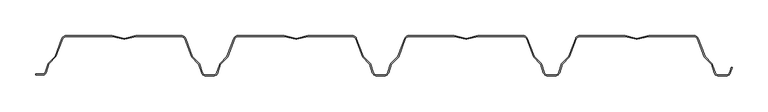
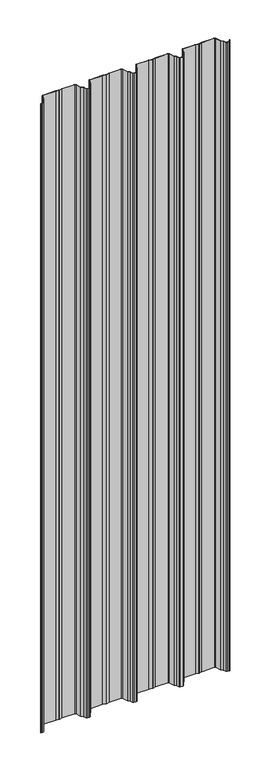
"""IFC4 building model written with IfcOpenShell, lengths in millimetres: plate geometry, HIANSA- H20.F08.006-CHAPA PERFILADA CUBIERTA - MT56 DECK - Panel de Muro Cortina : -."""

from ifc_helpers import new_model, si_unit, point, frame_2d, origin, origin_with_axes, place, context, project, spatial, polyline, circle_curve, trimmed, segment, composite_curve, outline, extrude, source, transform, mapped, element, save


def plate_98c327d0(model_context):
    return source(origin(), model_context, "Body", "SweptSolid", [
        extrude(outline(composite_curve([segment(trimmed(circle_curve(frame_2d((-118.4885808, 54.0787372)), 3.0), [point((-117.8135991, 51.1556567))], [point((-119.1618653, 51.1552653))], False, "CARTESIAN"), True, "CONTINUOUS"), segment(polyline([(-119.1618653, 51.1552653), (-134.9876871, 54.8), (-199.5917421, 54.8)]), True, "CONTINUOUS"), segment(trimmed(circle_curve(frame_2d((-199.5917421, 50.0)), 4.8), [point((-199.5917421, 54.8))], [point((-204.0830462, 51.6935723))], True, "CARTESIAN"), True, "CONTINUOUS"), segment(polyline([(-204.0830462, 51.6935723), (-213.7771182, 25.9851779), (-223.762296, 16.0), (-227.4465616, 4.21035)]), True, "CONTINUOUS"), segment(trimmed(circle_curve(frame_2d((-233.1734415, 6.0)), 6.0), [point((-227.4465616, 4.21035))], [point((-233.1734415, 0.0))], False, "CARTESIAN"), True, "CONTINUOUS"), segment(polyline([(-233.1734415, 0.0), (-244.3511505, 0.0)]), True, "CONTINUOUS"), segment(trimmed(circle_curve(frame_2d((-244.3511505, 6.0)), 6.0), [point((-244.3511505, 0.0))], [point((-250.0780304, 4.21035))], False, "CARTESIAN"), True, "CONTINUOUS"), segment(polyline([(-250.0780304, 4.21035), (-253.762296, 16.0), (-263.7474739, 25.9851779), (-273.4415459, 51.6935723)]), True, "CONTINUOUS"), segment(trimmed(circle_curve(frame_2d((-277.93285, 50.0)), 4.8), [point((-273.4415459, 51.6935723))], [point((-277.93285, 54.8))], True, "CARTESIAN"), True, "CONTINUOUS"), segment(polyline([(-277.93285, 54.8), (-341.3059902, 54.8), (-357.0882081, 51.1556567)]), True, "CONTINUOUS"), segment(trimmed(circle_curve(frame_2d((-357.7631898, 54.0787372)), 3.0), [point((-357.0882081, 51.1556567))], [point((-358.4364742, 51.1552653))], False, "CARTESIAN"), True, "CONTINUOUS"), segment(polyline([(-358.4364742, 51.1552653), (-374.262296, 54.8), (-438.8656731, 54.8)]), True, "CONTINUOUS"), segment(trimmed(circle_curve(frame_2d((-438.8656731, 50.0)), 4.8), [point((-438.8656731, 54.8))], [point((-443.3560907, 51.6959213))], True, "CARTESIAN"), True, "CONTINUOUS"), segment(polyline([(-443.3560907, 51.6959213), (-452.8189496, 26.6404027), (-462.8276469, 16.6317054), (-466.5964178, 4.5686077)]), True, "CONTINUOUS"), segment(trimmed(circle_curve(frame_2d((-471.1780241, 6.0)), 4.8), [point((-466.5964178, 4.5686077))], [point((-471.1780241, 1.2))], False, "CARTESIAN"), True, "CONTINUOUS"), segment(polyline([(-471.1780241, 1.2), (-480.797496, 1.2), (-480.797496, 2.4), (-471.2025043, 2.4)]), True, "CONTINUOUS"), segment(trimmed(circle_curve(frame_2d((-471.2025043, 6.0)), 3.6), [point((-471.2025043, 2.4))], [point((-467.7683698, 4.9198518))], True, "CARTESIAN"), True, "CONTINUOUS"), segment(polyline([(-467.7683698, 4.9198518), (-463.8826643, 17.2737442), (-453.8495664, 27.3068422), (-444.4976666, 52.1163287)]), True, "CONTINUOUS"), segment(trimmed(circle_curve(frame_2d((-438.8832964, 50.0)), 6.0), [point((-444.4976666, 52.1163287))], [point((-438.8832964, 56.0))], False, "CARTESIAN"), True, "CONTINUOUS"), segment(polyline([(-438.8832964, 56.0), (-374.1258994, 56.0), (-357.7626535, 52.2314949), (-341.4427397, 56.0), (-277.9155657, 56.0)]), True, "CONTINUOUS"), segment(trimmed(circle_curve(frame_2d((-277.9155657, 50.0)), 6.0), [point((-277.9155657, 56.0))], [point((-272.3001492, 52.1135511))], False, "CARTESIAN"), True, "CONTINUOUS"), segment(polyline([(-272.3001492, 52.1135511), (-262.7165938, 26.651354), (-253.2095389, 17.1442991)]), True, "CONTINUOUS"), segment(trimmed(circle_curve(frame_2d((-255.2601485, 15.0936894)), 2.9), [point((-253.2095389, 17.1442991))], [point((-252.4921566, 15.9586869))], False, "CARTESIAN"), True, "CONTINUOUS"), segment(polyline([(-252.4921566, 15.9586869), (-248.9326544, 4.56828)]), True, "CONTINUOUS"), segment(trimmed(circle_curve(frame_2d((-244.3511505, 6.0)), 4.8), [point((-248.9326544, 4.56828))], [point((-244.3511505, 1.2))], True, "CARTESIAN"), True, "CONTINUOUS"), segment(polyline([(-244.3511505, 1.2), (-233.1734415, 1.2)]), True, "CONTINUOUS"), segment(trimmed(circle_curve(frame_2d((-233.1734415, 6.0)), 4.8), [point((-233.1734415, 1.2))], [point((-228.5919376, 4.56828))], True, "CARTESIAN"), True, "CONTINUOUS"), segment(polyline([(-228.5919376, 4.56828), (-225.0324355, 15.9586869)]), True, "CONTINUOUS"), segment(trimmed(circle_curve(frame_2d((-222.2644435, 15.0936894)), 2.9), [point((-225.0324355, 15.9586869))], [point((-224.3150532, 17.1442991))], False, "CARTESIAN"), True, "CONTINUOUS"), segment(polyline([(-224.3150532, 17.1442991), (-214.8079982, 26.651354), (-205.2244428, 52.1135511)]), True, "CONTINUOUS"), segment(trimmed(circle_curve(frame_2d((-199.6090264, 50.0)), 6.0), [point((-205.2244428, 52.1135511))], [point((-199.6090264, 56.0))], False, "CARTESIAN"), True, "CONTINUOUS"), segment(polyline([(-199.6090264, 56.0), (-134.8516294, 56.0), (-118.4883835, 52.2314949), (-102.1684697, 56.0), (-39.9155657, 56.0)]), True, "CONTINUOUS"), segment(trimmed(circle_curve(frame_2d((-39.9155657, 50.0)), 6.0), [point((-39.9155657, 56.0))], [point((-34.3001492, 52.1135511))], False, "CARTESIAN"), True, "CONTINUOUS"), segment(polyline([(-34.3001492, 52.1135511), (-24.7165938, 26.651354), (-15.2095389, 17.1442991)]), True, "CONTINUOUS"), segment(trimmed(circle_curve(frame_2d((-17.2601485, 15.0936894)), 2.9), [point((-15.2095389, 17.1442991))], [point((-14.4921566, 15.9586869))], False, "CARTESIAN"), True, "CONTINUOUS"), segment(polyline([(-14.4921566, 15.9586869), (-10.9326544, 4.56828)]), True, "CONTINUOUS"), segment(trimmed(circle_curve(frame_2d((-6.3511505, 6.0)), 4.8), [point((-10.9326544, 4.56828))], [point((-6.3511505, 1.2))], True, "CARTESIAN"), True, "CONTINUOUS"), segment(polyline([(-6.3511505, 1.2), (4.8265585, 1.2)]), True, "CONTINUOUS"), segment(trimmed(circle_curve(frame_2d((4.8265585, 6.0)), 4.8), [point((4.8265585, 1.2))], [point((9.4080624, 4.56828))], True, "CARTESIAN"), True, "CONTINUOUS"), segment(polyline([(9.4080624, 4.56828), (12.9675645, 15.9586869)]), True, "CONTINUOUS"), segment(trimmed(circle_curve(frame_2d((15.7355565, 15.0936894)), 2.9), [point((12.9675645, 15.9586869))], [point((13.6849468, 17.1442991))], False, "CARTESIAN"), True, "CONTINUOUS"), segment(polyline([(13.6849468, 17.1442991), (23.1920018, 26.651354), (32.7755572, 52.1135511)]), True, "CONTINUOUS"), segment(trimmed(circle_curve(frame_2d((38.3909736, 50.0)), 6.0), [point((32.7755572, 52.1135511))], [point((38.3909736, 56.0))], False, "CARTESIAN"), True, "CONTINUOUS"), segment(polyline([(38.3909736, 56.0), (101.8732296, 56.0000001), (118.2364755, 52.231495), (134.5563893, 56.0000001), (198.0840845, 56.0)]), True, "CONTINUOUS"), segment(trimmed(circle_curve(frame_2d((198.0840845, 50.0)), 6.0), [point((198.0840845, 56.0))], [point((203.699501, 52.1135511))], False, "CARTESIAN"), True, "CONTINUOUS"), segment(polyline([(203.699501, 52.1135511), (213.2830564, 26.651354), (222.7901113, 17.1442991)]), True, "CONTINUOUS"), segment(trimmed(circle_curve(frame_2d((220.7395017, 15.0936894)), 2.9), [point((222.7901113, 17.1442991))], [point((223.5074936, 15.9586869))], False, "CARTESIAN"), True, "CONTINUOUS"), segment(polyline([(223.5074936, 15.9586869), (227.0669957, 4.56828)]), True, "CONTINUOUS"), segment(trimmed(circle_curve(frame_2d((231.6484996, 6.0)), 4.8), [point((227.0669957, 4.56828))], [point((231.6484996, 1.2))], True, "CARTESIAN"), True, "CONTINUOUS"), segment(polyline([(231.6484996, 1.2), (242.8262087, 1.2)]), True, "CONTINUOUS"), segment(trimmed(circle_curve(frame_2d((242.8262087, 6.0)), 4.8), [point((242.8262087, 1.2))], [point((247.4077126, 4.56828))], True, "CARTESIAN"), True, "CONTINUOUS"), segment(polyline([(247.4077126, 4.56828), (250.9672147, 15.9586869)]), True, "CONTINUOUS"), segment(trimmed(circle_curve(frame_2d((253.7352067, 15.0936894)), 2.9), [point((250.9672147, 15.9586869))], [point((251.684597, 17.1442991))], False, "CARTESIAN"), True, "CONTINUOUS"), segment(polyline([(251.684597, 17.1442991), (261.1916519, 26.651354), (270.7752074, 52.1135511)]), True, "CONTINUOUS"), segment(trimmed(circle_curve(frame_2d((276.3906238, 50.0)), 6.0), [point((270.7752074, 52.1135511))], [point((276.3906238, 56.0))], False, "CARTESIAN"), True, "CONTINUOUS"), segment(polyline([(276.3906238, 56.0), (339.9181477, 56.0), (356.2380615, 52.2314949), (372.6013074, 56.0), (436.0844343, 56.0)]), True, "CONTINUOUS"), segment(trimmed(circle_curve(frame_2d((436.0844343, 50.0)), 6.0), [point((436.0844343, 56.0))], [point((441.6998508, 52.1135511))], False, "CARTESIAN"), True, "CONTINUOUS"), segment(polyline([(441.6998508, 52.1135511), (451.2834062, 26.651354), (460.7904611, 17.1442991)]), True, "CONTINUOUS"), segment(trimmed(circle_curve(frame_2d((458.7398515, 15.0936894)), 2.9), [point((460.7904611, 17.1442991))], [point((461.5078434, 15.9586869))], False, "CARTESIAN"), True, "CONTINUOUS"), segment(polyline([(461.5078434, 15.9586869), (465.0673456, 4.56828)]), True, "CONTINUOUS"), segment(trimmed(circle_curve(frame_2d((469.6488495, 6.0)), 4.8), [point((465.0673456, 4.56828))], [point((469.6488495, 1.2))], True, "CARTESIAN"), True, "CONTINUOUS"), segment(polyline([(469.6488495, 1.2), (480.8266588, 1.2)]), True, "CONTINUOUS"), segment(trimmed(circle_curve(frame_2d((480.8266588, 6.0)), 4.8), [point((480.8266588, 1.2))], [point((485.4081005, 4.5680812))], True, "CARTESIAN"), True, "CONTINUOUS"), segment(polyline([(485.4081005, 4.5680812), (487.6620258, 11.7795427), (488.8184271, 11.4583138), (486.5534384, 4.21035)]), True, "CONTINUOUS"), segment(trimmed(circle_curve(frame_2d((480.8265585, 6.0)), 6.0), [point((486.5534384, 4.21035))], [point((480.8265585, 0.0))], False, "CARTESIAN"), True, "CONTINUOUS"), segment(polyline([(480.8265585, 0.0), (469.6488495, 0.0)]), True, "CONTINUOUS"), segment(trimmed(circle_curve(frame_2d((469.6488495, 6.0)), 6.0), [point((469.6488495, 0.0))], [point((463.9219696, 4.21035))], False, "CARTESIAN"), True, "CONTINUOUS"), segment(polyline([(463.9219696, 4.21035), (460.237704, 16.0), (450.2525261, 25.9851779), (440.5584541, 51.6935723)]), True, "CONTINUOUS"), segment(trimmed(circle_curve(frame_2d((436.06715, 50.0)), 4.8), [point((440.5584541, 51.6935723))], [point((436.06715, 54.8))], True, "CARTESIAN"), True, "CONTINUOUS"), segment(polyline([(436.06715, 54.8), (372.737704, 54.8), (356.9118822, 51.1552653)]), True, "CONTINUOUS"), segment(trimmed(circle_curve(frame_2d((356.2385978, 54.0787372)), 3.0), [point((356.9118822, 51.1552653))], [point((355.563616, 51.1556567))], False, "CARTESIAN"), True, "CONTINUOUS"), segment(polyline([(355.563616, 51.1556567), (339.7813982, 54.8), (276.4079081, 54.8)]), True, "CONTINUOUS"), segment(trimmed(circle_curve(frame_2d((276.4079081, 50.0)), 4.8), [point((276.4079081, 54.8))], [point((271.916604, 51.6935723))], True, "CARTESIAN"), True, "CONTINUOUS"), segment(polyline([(271.916604, 51.6935723), (262.222532, 25.9851779), (252.2373542, 16.0), (248.5530885, 4.21035)]), True, "CONTINUOUS"), segment(trimmed(circle_curve(frame_2d((242.8262087, 6.0)), 6.0), [point((248.5530885, 4.21035))], [point((242.8262087, 0.0))], False, "CARTESIAN"), True, "CONTINUOUS"), segment(polyline([(242.8262087, 0.0), (231.6484996, 0.0)]), True, "CONTINUOUS"), segment(trimmed(circle_curve(frame_2d((231.6484996, 6.0)), 6.0), [point((231.6484996, 0.0))], [point((225.9216198, 4.21035))], False, "CARTESIAN"), True, "CONTINUOUS"), segment(polyline([(225.9216198, 4.21035), (222.2373542, 16.0), (212.2521763, 25.9851779), (202.5581043, 51.6935723)]), True, "CONTINUOUS"), segment(trimmed(circle_curve(frame_2d((198.0668002, 50.0)), 4.8), [point((202.5581043, 51.6935723))], [point((198.0668002, 54.8))], True, "CARTESIAN"), True, "CONTINUOUS"), segment(polyline([(198.0668002, 54.8), (134.6931388, 54.8000001), (118.910921, 51.1556568)]), True, "CONTINUOUS"), segment(trimmed(circle_curve(frame_2d((118.2359392, 54.0787373)), 3.0), [point((118.910921, 51.1556568))], [point((117.5626548, 51.1552654))], False, "CARTESIAN"), True, "CONTINUOUS"), segment(polyline([(117.5626548, 51.1552654), (101.736833, 54.8000001), (38.4085969, 54.8)]), True, "CONTINUOUS"), segment(trimmed(circle_curve(frame_2d((38.4085969, 50.0)), 4.8), [point((38.4085969, 54.8))], [point((33.9172928, 51.6935723))], True, "CARTESIAN"), True, "CONTINUOUS"), segment(polyline([(33.9172928, 51.6935723), (24.2232208, 25.9851779), (14.2380429, 16.0), (10.5537773, 4.21035)]), True, "CONTINUOUS"), segment(trimmed(circle_curve(frame_2d((4.8268975, 6.0)), 6.0), [point((10.5537773, 4.21035))], [point((4.8268975, 0.0))], False, "CARTESIAN"), True, "CONTINUOUS"), segment(polyline([(4.8268975, 0.0), (-6.3508116, 0.0)]), True, "CONTINUOUS"), segment(trimmed(circle_curve(frame_2d((-6.3508116, 6.0)), 6.0), [point((-6.3508116, 0.0))], [point((-12.0776914, 4.21035))], False, "CARTESIAN"), True, "CONTINUOUS"), segment(polyline([(-12.0776914, 4.21035), (-15.7619571, 16.0), (-25.7471349, 25.9851779), (-35.4412069, 51.6935723)]), True, "CONTINUOUS"), segment(trimmed(circle_curve(frame_2d((-39.932511, 50.0)), 4.8), [point((-35.4412069, 51.6935723))], [point((-39.932511, 54.8))], True, "CARTESIAN"), True, "CONTINUOUS"), segment(polyline([(-39.932511, 54.8), (-102.0313813, 54.8), (-117.8135991, 51.1556567)]), True, "CONTINUOUS")], self_intersect=False)), origin_with_axes(), (0.0, 0.0, 1.0), 3390.8509027),
    ])


if __name__ == "__main__":
    model = new_model("IFC4")
    model_context = context("Model", 3, world=origin())
    ifc_project = project(units=[si_unit("LENGTHUNIT", "METRE", prefix="MILLI")], contexts=[model_context])
    site = spatial("IfcSite", under=ifc_project)
    building = spatial("IfcBuilding", under=site)
    placement = place(None, origin())
    plate_shape = plate_98c327d0(model_context)
    element("IfcPlate", 1, ObjectType="HIANSA- H20.F08.006-CHAPA PERFILADA CUBIERTA - MT56 DECK - Panel de Muro Cortina : -", at=placement, inside=building, context=model_context, shape_type="MappedRepresentation", body=[
        mapped(plate_shape, transform((0.0, 0.0, 0.0), x_axis=(1.0, 0.0, 0.0), y_axis=(0.0, 1.0, 0.0), z_axis=(0.0, 0.0, 1.0))),
    ])
    save(model, "model.ifc")
